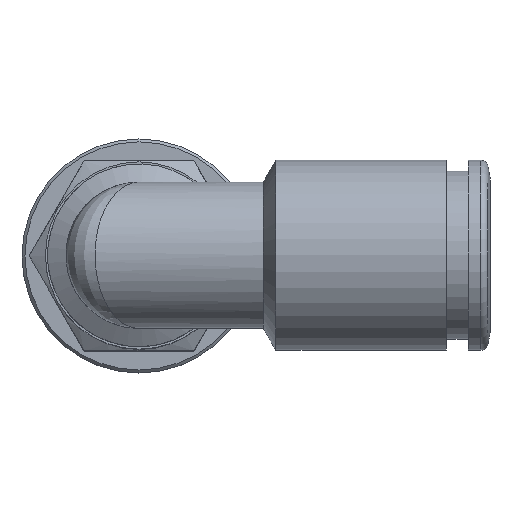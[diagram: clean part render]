
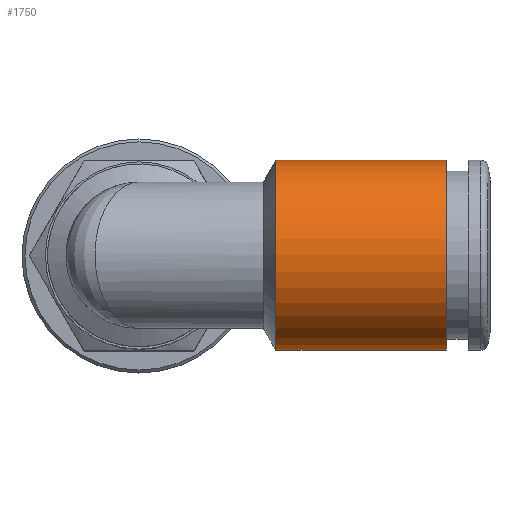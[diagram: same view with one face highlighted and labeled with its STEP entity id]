
A CAD part, top view. The second image highlights one B-rep face of the part: STEP entity #1750.
In plain terms, the highlighted cylindrical face has radius 6.5 mm (diameter 13 mm), a full revolution.
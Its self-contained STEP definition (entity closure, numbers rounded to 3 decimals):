
#1750=ADVANCED_FACE('', (#1760,#1770), #1780, .T.);
#5850=AXIS2_PLACEMENT_3D('Ax2Pl3d', #5860, #5870, #5880);
#6810=AXIS2_PLACEMENT_3D('Ax2Pl3d', #6820, #6830, #6840);
#6850=AXIS2_PLACEMENT_3D('Ax2Pl3d', #6860, #6870, #6880);
#5860=CARTESIAN_POINT('HicPkt', (31.688,8.803,
26.032));
#24530=CARTESIAN_POINT('', (31.688,8.803,32.532));
#6820=CARTESIAN_POINT('HicPkt', (20.054,8.803,
26.032));
#24670=CARTESIAN_POINT('', (20.054,8.803,32.532));
#6860=CARTESIAN_POINT('HicPkt', (20.054,8.803,
26.032));
#25530=CIRCLE('Circle', #5850, 6.5);
#25630=CIRCLE('Circle', #6810, 6.5);
#1780=CYLINDRICAL_SURFACE('Zyl', #6850, 6.5);
#5870=DIRECTION('Axis', (-1.,0.,0.))
;
#5880=DIRECTION('RefDirection', (0.,
0.,-1.));
#6830=DIRECTION('Axis', (-1.,0.,0.))
;
#6840=DIRECTION('RefDirection', (0.,
0.,-1.));
#6870=DIRECTION('Axis', (1.,0.,0.));
#6880=DIRECTION('RefDirection', (0.,0.,-1.));
#29790=EDGE_CURVE('', #29800, #29800, #25530, .T.);
#30170=EDGE_CURVE('', #30180, #30180, #25630, .T.);
#33080=EDGE_LOOP('Edge_loop', (#33090));
#33100=EDGE_LOOP('Edge_loop', (#33110));
#1770=FACE_BOUND('', #33100, .T.);
#1760=FACE_OUTER_BOUND('Face_outer_bound', #33080, .T.);
#33090=ORIENTED_EDGE('', *, *, #29790, .T.);
#33110=ORIENTED_EDGE('', *, *, #30170, .F.);
#29800=VERTEX_POINT('', #24530);
#30180=VERTEX_POINT('', #24670);
